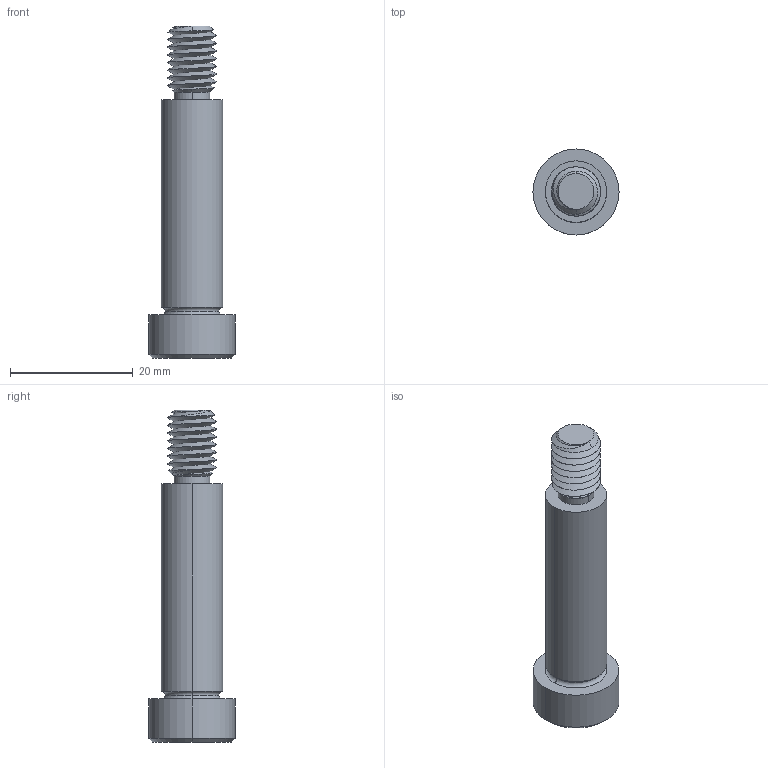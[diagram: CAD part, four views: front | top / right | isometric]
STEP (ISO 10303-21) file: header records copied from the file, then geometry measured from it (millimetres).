
FILE_DESCRIPTION (( 'STEP AP203' ), '1' );
FILE_NAME ('P0130.100-035-B8.step', '2021-11-09T21:54:29', ( '' ), ( '' ), 'SwSTEP 2.0', 'SolidWorks 2019', '' );
FILE_SCHEMA (( 'CONFIG_CONTROL_DESIGN' ));
Length unit declared in the file: millimetre
Products named in the file (1): P0130.100-035-B8
Bounding box: 14 x 14 x 54 mm (x, y, z)
Volume: 4116.1 mm3; surface area: 2277.5 mm2
Topology: 1 solids, 1 shells, 58 faces, 136 edges, 81 vertices
Faces by surface type: cylinder 21, plane 16, cone 15, torus 4, bspline 2
Entity records: 4214 total; most frequent: CARTESIAN_POINT 2911, ORIENTED_EDGE 268, DIRECTION 241, EDGE_CURVE 134, AXIS2_PLACEMENT_3D 97, VERTEX_POINT 81, EDGE_LOOP 61, FACE_OUTER_BOUND 58
